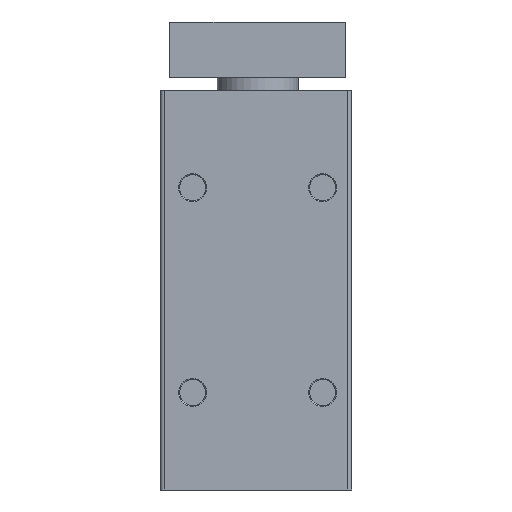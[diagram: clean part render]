
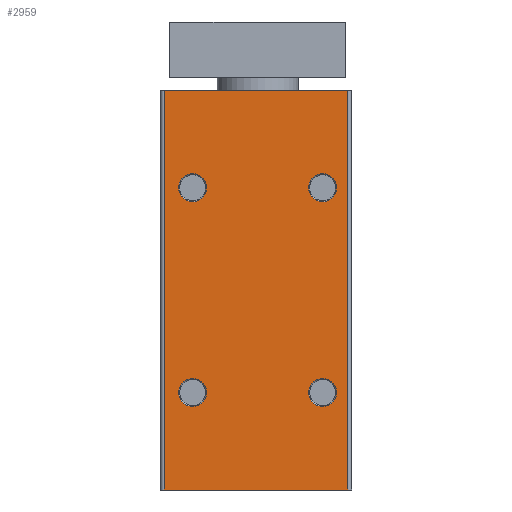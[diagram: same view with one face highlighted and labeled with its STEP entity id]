
A CAD part, front view. The second image highlights one B-rep face of the part: STEP entity #2959.
In plain terms, the highlighted planar face has unit normal (0, -1, 0).
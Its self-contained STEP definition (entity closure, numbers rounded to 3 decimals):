
#1341=CARTESIAN_POINT('',(27.8,-74.0,-127.));
#1342=VERTEX_POINT('',#1341);
#1350=CARTESIAN_POINT('',(-28.8,-74.0,-127.));
#1351=VERTEX_POINT('',#1350);
#1352=CARTESIAN_POINT('',(-28.8,-74.0,-127.));
#1353=DIRECTION('',(1.0,0.0,0.0));
#1354=VECTOR('',#1353,56.6);
#1355=LINE('',#1352,#1354);
#1356=EDGE_CURVE('',#1351,#1342,#1355,.T.);
#1914=CARTESIAN_POINT('',(-28.8,-74.0,-4.));
#1915=VERTEX_POINT('',#1914);
#1923=CARTESIAN_POINT('',(27.8,-74.0,-4.));
#1924=VERTEX_POINT('',#1923);
#1925=CARTESIAN_POINT('',(27.8,-74.0,-4.));
#1926=DIRECTION('',(-1.0,0.0,0.0));
#1927=VECTOR('',#1926,56.6);
#1928=LINE('',#1925,#1927);
#1929=EDGE_CURVE('',#1924,#1915,#1928,.T.);
#2890=CARTESIAN_POINT('',(-15.7,-74.0,-34.0));
#2891=VERTEX_POINT('',#2890);
#2892=CARTESIAN_POINT('',(-20.,-74.0,-34.0));
#2893=DIRECTION('',(0.0,-1.0,0.0));
#2894=DIRECTION('',(-1.0,0.0,0.0));
#2895=AXIS2_PLACEMENT_3D('',#2892,#2893,#2894);
#2896=CIRCLE('',#2895,4.3);
#2897=EDGE_CURVE('',#2891,#2891,#2896,.T.);
#2902=CARTESIAN_POINT('',(-28.8,-74.0,-4.));
#2903=DIRECTION('',(0.0,-1.0,0.0));
#2904=DIRECTION('',(0.0,0.0,-1.0));
#2905=AXIS2_PLACEMENT_3D('',#2902,#2903,#2904);
#2906=PLANE('',#2905);
#2907=ORIENTED_EDGE('',*,*,#1356,.T.);
#2908=CARTESIAN_POINT('',(27.8,-74.0,-4.));
#2909=DIRECTION('',(0.0,0.0,-1.0));
#2910=VECTOR('',#2909,123.);
#2911=LINE('',#2908,#2910);
#2912=EDGE_CURVE('',#1924,#1342,#2911,.T.);
#2913=ORIENTED_EDGE('',*,*,#2912,.F.);
#2914=ORIENTED_EDGE('',*,*,#1929,.T.);
#2915=CARTESIAN_POINT('',(-28.8,-74.0,-4.));
#2916=DIRECTION('',(0.0,0.0,-1.0));
#2917=VECTOR('',#2916,123.);
#2918=LINE('',#2915,#2917);
#2919=EDGE_CURVE('',#1915,#1351,#2918,.T.);
#2920=ORIENTED_EDGE('',*,*,#2919,.T.);
#2921=EDGE_LOOP('',(#2907,#2913,#2914,#2920));
#2922=FACE_OUTER_BOUND('',#2921,.T.);
#2923=CARTESIAN_POINT('',(-15.7,-74.0,-97.));
#2924=VERTEX_POINT('',#2923);
#2925=CARTESIAN_POINT('',(-20.,-74.0,-97.));
#2926=DIRECTION('',(0.0,-1.0,0.0));
#2927=DIRECTION('',(-1.0,0.0,0.0));
#2928=AXIS2_PLACEMENT_3D('',#2925,#2926,#2927);
#2929=CIRCLE('',#2928,4.3);
#2930=EDGE_CURVE('',#2924,#2924,#2929,.T.);
#2931=ORIENTED_EDGE('',*,*,#2930,.F.);
#2932=EDGE_LOOP('',(#2931));
#2933=FACE_BOUND('',#2932,.T.);
#2934=CARTESIAN_POINT('',(24.3,-74.0,-34.0));
#2935=VERTEX_POINT('',#2934);
#2936=CARTESIAN_POINT('',(20.,-74.0,-34.0));
#2937=DIRECTION('',(0.0,-1.0,0.0));
#2938=DIRECTION('',(-1.0,0.0,0.0));
#2939=AXIS2_PLACEMENT_3D('',#2936,#2937,#2938);
#2940=CIRCLE('',#2939,4.3);
#2941=EDGE_CURVE('',#2935,#2935,#2940,.T.);
#2942=ORIENTED_EDGE('',*,*,#2941,.F.);
#2943=EDGE_LOOP('',(#2942));
#2944=FACE_BOUND('',#2943,.T.);
#2945=CARTESIAN_POINT('',(24.3,-74.0,-97.));
#2946=VERTEX_POINT('',#2945);
#2947=CARTESIAN_POINT('',(20.,-74.0,-97.));
#2948=DIRECTION('',(0.0,-1.0,0.0));
#2949=DIRECTION('',(-1.0,0.0,0.0));
#2950=AXIS2_PLACEMENT_3D('',#2947,#2948,#2949);
#2951=CIRCLE('',#2950,4.3);
#2952=EDGE_CURVE('',#2946,#2946,#2951,.T.);
#2953=ORIENTED_EDGE('',*,*,#2952,.F.);
#2954=EDGE_LOOP('',(#2953));
#2955=FACE_BOUND('',#2954,.T.);
#2956=ORIENTED_EDGE('',*,*,#2897,.F.);
#2957=EDGE_LOOP('',(#2956));
#2958=FACE_BOUND('',#2957,.T.);
#2959=ADVANCED_FACE('',(#2922,#2933,#2944,#2955,#2958),#2906,.T.);
